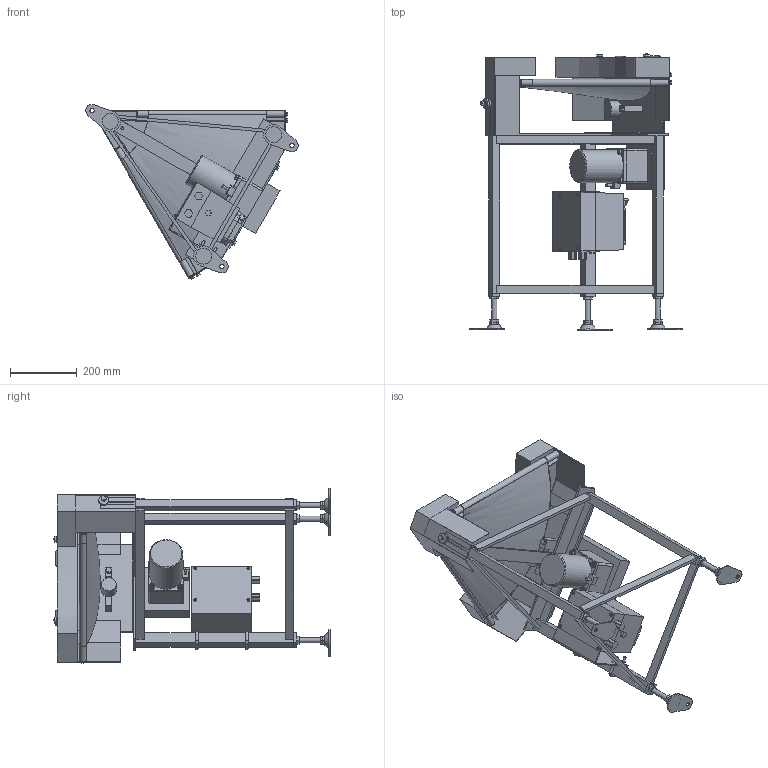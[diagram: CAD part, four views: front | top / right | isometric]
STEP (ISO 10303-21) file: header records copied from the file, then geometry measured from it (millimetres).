
FILE_DESCRIPTION (( 'STEP AP214' ), '1' );
FILE_NAME ('FFBC3-UD-309-300-60°-R-IV-60.STEP', '2023-04-18T07:25:05', ( '' ), ( '' ), 'SwSTEP 2.0', 'SolidWorks 2017', '' );
FILE_SCHEMA (( 'AUTOMOTIVE_DESIGN' ));
Length unit declared in the file: millimetre
Products named in the file (1): FFBC3-UD-309-300-60°-R-IV-60
Bounding box: 637.5 x 827.92 x 525.13 mm (x, y, z)
Volume: 15667027.2 mm3; surface area: 2541925.2 mm2
Topology: 55 solids, 56 shells, 1023 faces, 2349 edges, 1518 vertices
Faces by surface type: plane 742, cylinder 199, bspline 49, cone 19, torus 12, sphere 2
Full cylindrical faces by diameter (mm): 4 x4, 4.2 x2, 4.5 x1, 5 x4, 5.9 x4, 7 x1, 7.6 x4, 7.8 x1, 8 x16, 8.4 x4, 8.5 x8, 9 x6, 12.5 x4, 13 x11, 13.8 x1, 15 x4, 16 x9, 17 x9, 18 x4, 20 x3, 25 x1, 30 x2, 42 x1, 45 x1, 99 x1
Entity records: 47647 total; most frequent: CARTESIAN_POINT 13448, DIRECTION 4436, ORIENTED_EDGE 4340, EDGE_CURVE 2170, LINE 1560, VECTOR 1560, VERTEX_POINT 1482, AXIS2_PLACEMENT_3D 1438
